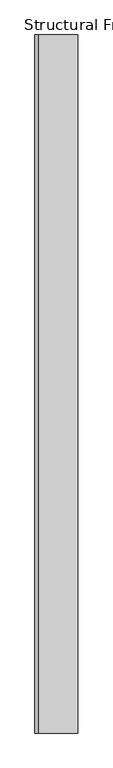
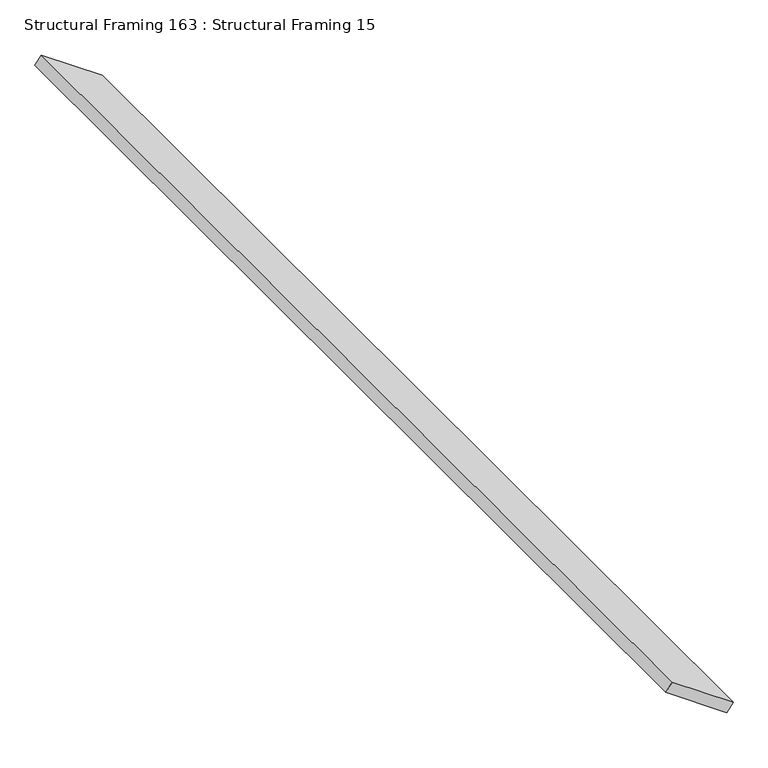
"""IFC4 building model written with IfcOpenShell, lengths in millimetres: beam geometry, Structural Framing 163 : Structural Framing 15."""

import ifcopenshell
import ifcopenshell.guid

model = None  # the IFC model being written
_history = None  # IfcOwnerHistory: only IFC2X3 demands one
_inside = {}  # id of a spatial element -> (the spatial element, [elements in it])
_under = {}  # id of a project, library or spatial element -> (it, [spatial elements below it])
_declared = {}  # id of a project -> (the project, [libraries it declares])
_typed = {}  # id of a type object -> (the type object, [elements of that type])
_made_of = {}  # id of a material, layer set ... -> (it, [elements and type objects made of it])


def new_model(schema):
    """Start an empty IFC model of exactly this schema.

    Asked for "IFC4X3", IfcOpenShell would pick the latest addendum, in which some entities
    have other attributes; the version numbers below select the first issue.
    IFC2X3 requires an IfcOwnerHistory on every rooted entity: one is made here for all.
    """
    global model, _history
    if schema == "IFC4X3":
        model = ifcopenshell.file(schema_version=(4, 3, 0, 0))
    else:
        model = ifcopenshell.file(schema=schema)
    _inside.clear()
    _under.clear()
    _declared.clear()
    _typed.clear()
    _made_of.clear()
    _history = None
    if model.schema == "IFC2X3":
        org = make("IfcOrganization", Name="unknown")
        user = make(
            "IfcPersonAndOrganization",
            ThePerson=make("IfcPerson", FamilyName="unknown"),
            TheOrganization=org,
        )
        app = make(
            "IfcApplication",
            ApplicationDeveloper=org,
            Version="unknown",
            ApplicationFullName="unknown",
            ApplicationIdentifier="unknown",
        )
        _history = make(
            "IfcOwnerHistory",
            OwningUser=user,
            OwningApplication=app,
            ChangeAction="ADDED",
            CreationDate=0,
        )
    return model


def make(cls, **values):
    """One entity of the class cls with the attributes given. An attribute that is None is left unset."""
    return model.create_entity(
        cls, **{name: value for name, value in values.items() if value is not None}
    )


def rooted(cls, **values):
    """An entity with a GlobalId (a new one), such as an element, a storey or a relation."""
    return make(cls, GlobalId=ifcopenshell.guid.new(), OwnerHistory=_history, **values)


def si_unit(unit_type, name, prefix=None):
    """IfcSIUnit, for example si_unit("LENGTHUNIT", "METRE", prefix="MILLI")."""
    return make("IfcSIUnit", UnitType=unit_type, Prefix=prefix, Name=name)


def assignment(units):
    """IfcUnitAssignment: the units of a project."""
    return None if units is None else make("IfcUnitAssignment", Units=units)


def point(xyz):
    """IfcCartesianPoint."""
    return None if xyz is None else make("IfcCartesianPoint", Coordinates=xyz)


def direction(xyz):
    """IfcDirection."""
    return None if xyz is None else make("IfcDirection", DirectionRatios=xyz)


def frame(location, z_axis=None, x_axis=None):
    """IfcAxis2Placement3D, a coordinate frame: its origin and axes. An axis left out is left unset."""
    return make(
        "IfcAxis2Placement3D",
        Location=point(location),
        Axis=direction(z_axis),
        RefDirection=direction(x_axis),
    )


def origin():
    """The frame at (0, 0, 0) with its axes left unset."""
    return frame((0.0, 0.0, 0.0))


def place(relative_to, where):
    """IfcLocalPlacement: puts the frame where relative to a parent placement (None: the world)."""
    return make(
        "IfcLocalPlacement", PlacementRelTo=relative_to, RelativePlacement=where
    )


def context(
    kind, dimensions, precision=None, world=None, true_north=None, identifier=None
):
    """IfcGeometricRepresentationContext, for example the 3D "Model" context."""
    return make(
        "IfcGeometricRepresentationContext",
        ContextIdentifier=identifier,
        ContextType=kind,
        CoordinateSpaceDimension=dimensions,
        Precision=precision,
        WorldCoordinateSystem=world,
        TrueNorth=true_north,
    )


def project(units=None, contexts=None):
    """IfcProject with its units and contexts."""
    return rooted(
        "IfcProject",
        Name="project",
        RepresentationContexts=contexts,
        UnitsInContext=assignment(units),
    )


def spatial(cls, under=None, at=None, **own):
    """A site, building, storey or space (cls), placed at a placement, below another one or the project."""
    s = rooted(cls, ObjectPlacement=at, **own)
    if under is not None:
        _under.setdefault(under.id(), (under, []))[1].append(s)
    return s


def polyline(points):
    """IfcPolyline through the points."""
    return make("IfcPolyline", Points=[point(p) for p in points])


def outline(outer, holes=None, kind="AREA"):
    """IfcArbitraryClosedProfileDef: a profile drawn as a closed curve; with holes, ...WithVoids."""
    if holes is None:
        return make("IfcArbitraryClosedProfileDef", ProfileType=kind, OuterCurve=outer)
    return make(
        "IfcArbitraryProfileDefWithVoids",
        ProfileType=kind,
        OuterCurve=outer,
        InnerCurves=holes,
    )


def extrude(swept, where, along, depth):
    """IfcExtrudedAreaSolid: the profile swept, set in the frame where, extruded along a direction by depth."""
    return make(
        "IfcExtrudedAreaSolid",
        SweptArea=swept,
        Position=where,
        ExtrudedDirection=direction(along),
        Depth=depth,
    )


def shape(context_of_items, identifier, shape_type, items):
    """IfcShapeRepresentation: the items that make up one representation, for example the "Body"."""
    return make(
        "IfcShapeRepresentation",
        ContextOfItems=context_of_items,
        RepresentationIdentifier=identifier,
        RepresentationType=shape_type,
        Items=items,
    )


def source(mapping_origin, context_of_items, identifier, shape_type, items):
    """IfcRepresentationMap: a shape defined once, which mapped items show again and again."""
    return make(
        "IfcRepresentationMap",
        MappingOrigin=mapping_origin,
        MappedRepresentation=shape(context_of_items, identifier, shape_type, items),
    )


def transform(
    local_origin,
    x_axis=None,
    y_axis=None,
    z_axis=None,
    scale=None,
    scale2=None,
    scale3=None,
    uniform=True,
):
    """IfcCartesianTransformationOperator3D, or its non-uniform kind. x_axis, y_axis, z_axis: its Axis1, 2, 3."""
    if uniform:
        return make(
            "IfcCartesianTransformationOperator3D",
            Axis1=direction(x_axis),
            Axis2=direction(y_axis),
            LocalOrigin=point(local_origin),
            Scale=scale,
            Axis3=direction(z_axis),
        )
    return make(
        "IfcCartesianTransformationOperator3DnonUniform",
        Axis1=direction(x_axis),
        Axis2=direction(y_axis),
        LocalOrigin=point(local_origin),
        Scale=scale,
        Axis3=direction(z_axis),
        Scale2=scale2,
        Scale3=scale3,
    )


def mapped(mapping_source, mapping_target):
    """IfcMappedItem: shows the shape of a source again, moved by a transform."""
    return make(
        "IfcMappedItem", MappingSource=mapping_source, MappingTarget=mapping_target
    )


def made_of(thing, what):
    """Note that an element or type object is made of a material, layer set ...; save() writes the relation."""
    if what is not None:
        _made_of.setdefault(what.id(), (what, []))[1].append(thing)
    return thing


def element(
    cls,
    number,
    at=None,
    inside=None,
    cuts=None,
    type_object=None,
    material=None,
    context=None,
    identifier="Body",
    shape_type=None,
    held_by="IfcProductDefinitionShape",
    body=None,
    shapes=None,
    **own,
):
    """One element of the class cls, such as IfcWall. Its Tag is "e" and its number.

    at: its placement. inside: the storey or other place that contains it. cuts: it is an
    opening in that element (IfcRelVoidsElement). A single representation is given by context,
    identifier, shape_type and body (its items); several are given by shapes. held_by: the class
    of the entity that holds the representations. save() writes the other relations.
    """
    e = rooted(cls, Tag="e%d" % number, ObjectPlacement=at, **own)
    if body is not None:
        shapes = [shape(context, identifier, shape_type, body)]
    if shapes is not None:
        e.Representation = make(held_by, Representations=shapes)
    if inside is not None:
        _inside.setdefault(inside.id(), (inside, []))[1].append(e)
    if cuts is not None:
        rooted(
            "IfcRelVoidsElement", RelatingBuildingElement=cuts, RelatedOpeningElement=e
        )
    if type_object is not None:
        _typed.setdefault(type_object.id(), (type_object, []))[1].append(e)
    return made_of(e, material)


def aggregate(whole, parts):
    """IfcRelAggregates: a whole, such as a stair, and the parts it consists of."""
    return rooted("IfcRelAggregates", RelatingObject=whole, RelatedObjects=parts)


def save(model, path):
    """Write the relations noted so far, then the file.

    IfcRelAggregates (storeys below a building ...), IfcRelContainedInSpatialStructure (elements
    in a storey), IfcRelDefinesByType, IfcRelAssociatesMaterial and IfcRelDeclares: one each for
    every whole, place, type object, material and project.
    """
    for whole, parts in _under.values():
        aggregate(whole, parts)
    for where, things in _inside.values():
        rooted(
            "IfcRelContainedInSpatialStructure",
            RelatedElements=things,
            RelatingStructure=where,
        )
    for kind, things in _typed.values():
        rooted("IfcRelDefinesByType", RelatedObjects=things, RelatingType=kind)
    for what, things in _made_of.values():
        rooted("IfcRelAssociatesMaterial", RelatedObjects=things, RelatingMaterial=what)
    for by, libraries in _declared.values():
        rooted("IfcRelDeclares", RelatingContext=by, RelatedDefinitions=libraries)
    model.write(path)


def structural_framing_163_structural_framing_15_fd44f6a2(model_context):
    return source(origin(), model_context, "Body", "SweptSolid", [
        extrude(outline(polyline([(0.0, -174.3446795), (0.0, 0.0), (2558.4556079, 0.0), (2558.4556079, -174.3446795), (0.0, -174.3446795)])), frame((1349.5937079, 3995.5508021, 2700.0), z_axis=(0.5735764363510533, 0.0, 0.8191520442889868), x_axis=(0.0, -1.0, 0.0)), (0.0, 0.0, 1.0), 25.0),
    ])


if __name__ == "__main__":
    model = new_model("IFC4")
    model_context = context("Model", 3, world=origin())
    ifc_project = project(units=[si_unit("LENGTHUNIT", "METRE", prefix="MILLI")], contexts=[model_context])
    site = spatial("IfcSite", under=ifc_project)
    building = spatial("IfcBuilding", under=site)
    placement = place(None, origin())
    structural_framing_163_structural_framing_15_shape = structural_framing_163_structural_framing_15_fd44f6a2(model_context)
    element("IfcBeam", 1, ObjectType="Structural Framing 163 : Structural Framing 15", at=placement, inside=building, context=model_context, shape_type="MappedRepresentation", body=[
        mapped(structural_framing_163_structural_framing_15_shape, transform((0.0, 0.0, 0.0), x_axis=(1.0, 0.0, 0.0), y_axis=(0.0, 1.0, 0.0), z_axis=(0.0, 0.0, 1.0))),
    ])
    save(model, "model.ifc")
